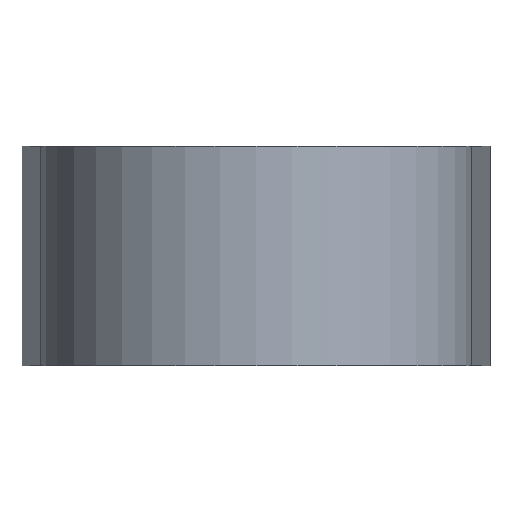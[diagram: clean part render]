
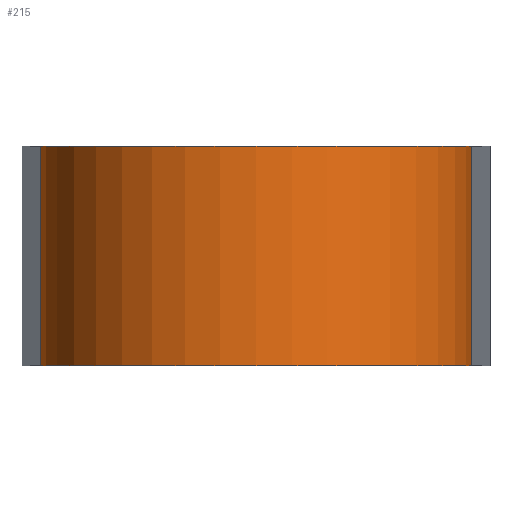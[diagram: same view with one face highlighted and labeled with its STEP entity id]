
A CAD part, left-side view. The second image highlights one B-rep face of the part: STEP entity #215.
In plain terms, the highlighted cylindrical face has radius 29.5 mm (diameter 59 mm), a partial arc.
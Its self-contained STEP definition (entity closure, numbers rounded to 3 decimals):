
#127=CYLINDRICAL_SURFACE('',#827,29.5);
#156=CIRCLE('',#825,29.5);
#157=CIRCLE('',#826,29.5);
#215=ADVANCED_FACE('',(#272),#127,.T.);
#272=FACE_OUTER_BOUND('',#306,.T.);
#306=EDGE_LOOP('',(#387,#388,#389,#390));
#387=ORIENTED_EDGE('',*,*,#644,.F.);
#388=ORIENTED_EDGE('',*,*,#647,.T.);
#389=ORIENTED_EDGE('',*,*,#627,.T.);
#390=ORIENTED_EDGE('',*,*,#648,.F.);
#561=VERTEX_POINT('',#1162);
#562=VERTEX_POINT('',#1164);
#573=VERTEX_POINT('',#1198);
#574=VERTEX_POINT('',#1199);
#627=EDGE_CURVE('',#562,#561,#727,.T.);
#644=EDGE_CURVE('',#573,#574,#740,.T.);
#647=EDGE_CURVE('',#573,#562,#156,.T.);
#648=EDGE_CURVE('',#574,#561,#157,.T.);
#727=LINE('',#1163,#771);
#740=LINE('',#1197,#784);
#771=VECTOR('',#917,1.);
#784=VECTOR('',#950,1.);
#825=AXIS2_PLACEMENT_3D('',#1203,#955,#956);
#826=AXIS2_PLACEMENT_3D('',#1204,#957,#958);
#827=AXIS2_PLACEMENT_3D('',#1205,#959,#960);
#917=DIRECTION('',(0.,0.,1.));
#950=DIRECTION('',(0.,0.,1.));
#955=DIRECTION('',(0.,0.,1.));
#956=DIRECTION('',(1.,0.,0.));
#957=DIRECTION('',(0.,0.,1.));
#958=DIRECTION('',(1.,0.,0.));
#959=DIRECTION('',(0.,0.,1.));
#960=DIRECTION('',(-1.,0.,0.));
#1162=CARTESIAN_POINT('',(-1.989,-29.433,30.));
#1163=CARTESIAN_POINT('',(-1.989,-29.433,0.));
#1164=CARTESIAN_POINT('',(-1.989,-29.433,0.));
#1197=CARTESIAN_POINT('',(-1.989,29.433,0.));
#1198=CARTESIAN_POINT('',(-1.989,29.433,0.));
#1199=CARTESIAN_POINT('',(-1.989,29.433,30.));
#1203=CARTESIAN_POINT('',(0.,0.,0.));
#1204=CARTESIAN_POINT('',(0.,0.,30.));
#1205=CARTESIAN_POINT('',(0.,0.,0.));
